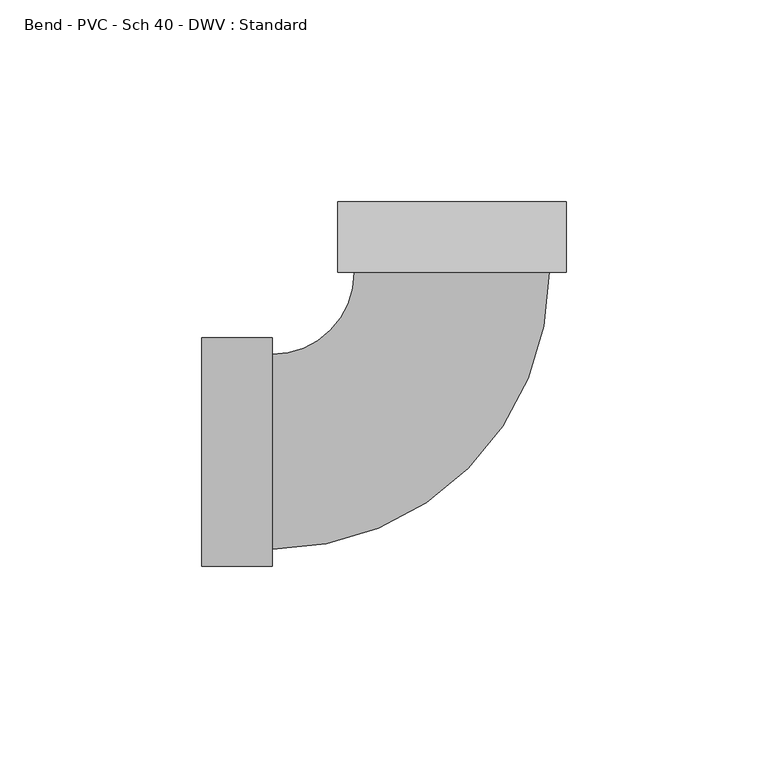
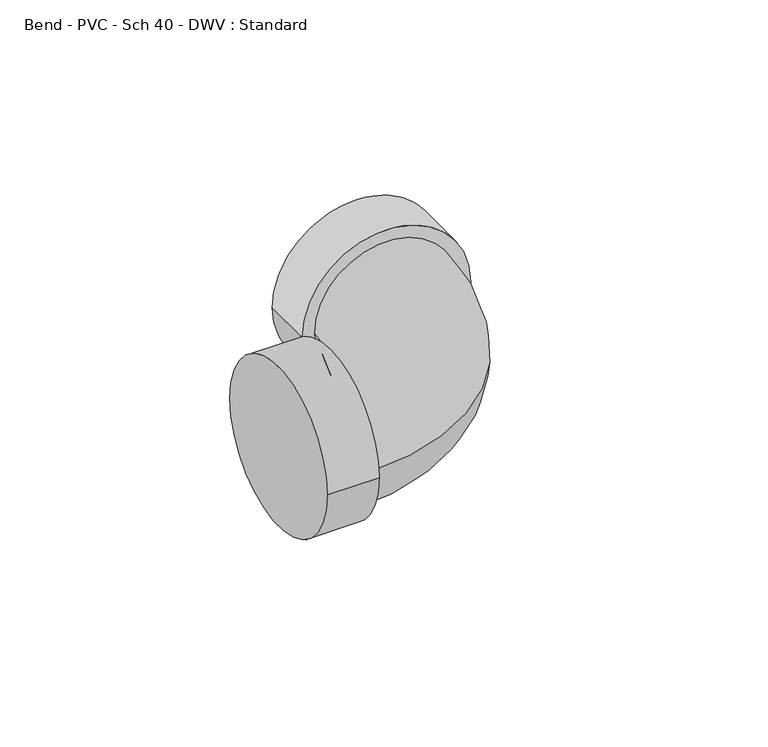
"""IFC4 building model written with IfcOpenShell, lengths in millimetres: pipe fitting geometry, Bend - PVC - Sch 40 - DWV : Standard."""

import ifcopenshell
import ifcopenshell.guid

model = None  # the IFC model being written
_history = None  # IfcOwnerHistory: only IFC2X3 demands one
_inside = {}  # id of a spatial element -> (the spatial element, [elements in it])
_under = {}  # id of a project, library or spatial element -> (it, [spatial elements below it])
_declared = {}  # id of a project -> (the project, [libraries it declares])
_typed = {}  # id of a type object -> (the type object, [elements of that type])
_made_of = {}  # id of a material, layer set ... -> (it, [elements and type objects made of it])


def new_model(schema):
    """Start an empty IFC model of exactly this schema.

    Asked for "IFC4X3", IfcOpenShell would pick the latest addendum, in which some entities
    have other attributes; the version numbers below select the first issue.
    IFC2X3 requires an IfcOwnerHistory on every rooted entity: one is made here for all.
    """
    global model, _history
    if schema == "IFC4X3":
        model = ifcopenshell.file(schema_version=(4, 3, 0, 0))
    else:
        model = ifcopenshell.file(schema=schema)
    _inside.clear()
    _under.clear()
    _declared.clear()
    _typed.clear()
    _made_of.clear()
    _history = None
    if model.schema == "IFC2X3":
        org = make("IfcOrganization", Name="unknown")
        user = make(
            "IfcPersonAndOrganization",
            ThePerson=make("IfcPerson", FamilyName="unknown"),
            TheOrganization=org,
        )
        app = make(
            "IfcApplication",
            ApplicationDeveloper=org,
            Version="unknown",
            ApplicationFullName="unknown",
            ApplicationIdentifier="unknown",
        )
        _history = make(
            "IfcOwnerHistory",
            OwningUser=user,
            OwningApplication=app,
            ChangeAction="ADDED",
            CreationDate=0,
        )
    return model


def make(cls, **values):
    """One entity of the class cls with the attributes given. An attribute that is None is left unset."""
    return model.create_entity(
        cls, **{name: value for name, value in values.items() if value is not None}
    )


def rooted(cls, **values):
    """An entity with a GlobalId (a new one), such as an element, a storey or a relation."""
    return make(cls, GlobalId=ifcopenshell.guid.new(), OwnerHistory=_history, **values)


def si_unit(unit_type, name, prefix=None):
    """IfcSIUnit, for example si_unit("LENGTHUNIT", "METRE", prefix="MILLI")."""
    return make("IfcSIUnit", UnitType=unit_type, Prefix=prefix, Name=name)


def assignment(units):
    """IfcUnitAssignment: the units of a project."""
    return None if units is None else make("IfcUnitAssignment", Units=units)


def point(xyz):
    """IfcCartesianPoint."""
    return None if xyz is None else make("IfcCartesianPoint", Coordinates=xyz)


def direction(xyz):
    """IfcDirection."""
    return None if xyz is None else make("IfcDirection", DirectionRatios=xyz)


def frame(location, z_axis=None, x_axis=None):
    """IfcAxis2Placement3D, a coordinate frame: its origin and axes. An axis left out is left unset."""
    return make(
        "IfcAxis2Placement3D",
        Location=point(location),
        Axis=direction(z_axis),
        RefDirection=direction(x_axis),
    )


def origin():
    """The frame at (0, 0, 0) with its axes left unset."""
    return frame((0.0, 0.0, 0.0))


def place(relative_to, where):
    """IfcLocalPlacement: puts the frame where relative to a parent placement (None: the world)."""
    return make(
        "IfcLocalPlacement", PlacementRelTo=relative_to, RelativePlacement=where
    )


def context(
    kind, dimensions, precision=None, world=None, true_north=None, identifier=None
):
    """IfcGeometricRepresentationContext, for example the 3D "Model" context."""
    return make(
        "IfcGeometricRepresentationContext",
        ContextIdentifier=identifier,
        ContextType=kind,
        CoordinateSpaceDimension=dimensions,
        Precision=precision,
        WorldCoordinateSystem=world,
        TrueNorth=true_north,
    )


def project(units=None, contexts=None):
    """IfcProject with its units and contexts."""
    return rooted(
        "IfcProject",
        Name="project",
        RepresentationContexts=contexts,
        UnitsInContext=assignment(units),
    )


def spatial(cls, under=None, at=None, **own):
    """A site, building, storey or space (cls), placed at a placement, below another one or the project."""
    s = rooted(cls, ObjectPlacement=at, **own)
    if under is not None:
        _under.setdefault(under.id(), (under, []))[1].append(s)
    return s


def circle_curve(where, radius):
    """IfcCircle in the frame where."""
    return make("IfcCircle", Position=where, Radius=radius)


def ellipse_curve(where, semi_axis1, semi_axis2):
    """IfcEllipse in the frame where."""
    return make(
        "IfcEllipse", Position=where, SemiAxis1=semi_axis1, SemiAxis2=semi_axis2
    )


def trimmed(basis, trim1, trim2, sense, master):
    """IfcTrimmedCurve: the piece of a basis curve between two trims."""
    return make(
        "IfcTrimmedCurve",
        BasisCurve=basis,
        Trim1=trim1,
        Trim2=trim2,
        SenseAgreement=sense,
        MasterRepresentation=master,
    )


def shape(context_of_items, identifier, shape_type, items):
    """IfcShapeRepresentation: the items that make up one representation, for example the "Body"."""
    return make(
        "IfcShapeRepresentation",
        ContextOfItems=context_of_items,
        RepresentationIdentifier=identifier,
        RepresentationType=shape_type,
        Items=items,
    )


def source(mapping_origin, context_of_items, identifier, shape_type, items):
    """IfcRepresentationMap: a shape defined once, which mapped items show again and again."""
    return make(
        "IfcRepresentationMap",
        MappingOrigin=mapping_origin,
        MappedRepresentation=shape(context_of_items, identifier, shape_type, items),
    )


def transform(
    local_origin,
    x_axis=None,
    y_axis=None,
    z_axis=None,
    scale=None,
    scale2=None,
    scale3=None,
    uniform=True,
):
    """IfcCartesianTransformationOperator3D, or its non-uniform kind. x_axis, y_axis, z_axis: its Axis1, 2, 3."""
    if uniform:
        return make(
            "IfcCartesianTransformationOperator3D",
            Axis1=direction(x_axis),
            Axis2=direction(y_axis),
            LocalOrigin=point(local_origin),
            Scale=scale,
            Axis3=direction(z_axis),
        )
    return make(
        "IfcCartesianTransformationOperator3DnonUniform",
        Axis1=direction(x_axis),
        Axis2=direction(y_axis),
        LocalOrigin=point(local_origin),
        Scale=scale,
        Axis3=direction(z_axis),
        Scale2=scale2,
        Scale3=scale3,
    )


def mapped(mapping_source, mapping_target):
    """IfcMappedItem: shows the shape of a source again, moved by a transform."""
    return make(
        "IfcMappedItem", MappingSource=mapping_source, MappingTarget=mapping_target
    )


def made_of(thing, what):
    """Note that an element or type object is made of a material, layer set ...; save() writes the relation."""
    if what is not None:
        _made_of.setdefault(what.id(), (what, []))[1].append(thing)
    return thing


def element(
    cls,
    number,
    at=None,
    inside=None,
    cuts=None,
    type_object=None,
    material=None,
    context=None,
    identifier="Body",
    shape_type=None,
    held_by="IfcProductDefinitionShape",
    body=None,
    shapes=None,
    **own,
):
    """One element of the class cls, such as IfcWall. Its Tag is "e" and its number.

    at: its placement. inside: the storey or other place that contains it. cuts: it is an
    opening in that element (IfcRelVoidsElement). A single representation is given by context,
    identifier, shape_type and body (its items); several are given by shapes. held_by: the class
    of the entity that holds the representations. save() writes the other relations.
    """
    e = rooted(cls, Tag="e%d" % number, ObjectPlacement=at, **own)
    if body is not None:
        shapes = [shape(context, identifier, shape_type, body)]
    if shapes is not None:
        e.Representation = make(held_by, Representations=shapes)
    if inside is not None:
        _inside.setdefault(inside.id(), (inside, []))[1].append(e)
    if cuts is not None:
        rooted(
            "IfcRelVoidsElement", RelatingBuildingElement=cuts, RelatedOpeningElement=e
        )
    if type_object is not None:
        _typed.setdefault(type_object.id(), (type_object, []))[1].append(e)
    return made_of(e, material)


def aggregate(whole, parts):
    """IfcRelAggregates: a whole, such as a stair, and the parts it consists of."""
    return rooted("IfcRelAggregates", RelatingObject=whole, RelatedObjects=parts)


def save(model, path):
    """Write the relations noted so far, then the file.

    IfcRelAggregates (storeys below a building ...), IfcRelContainedInSpatialStructure (elements
    in a storey), IfcRelDefinesByType, IfcRelAssociatesMaterial and IfcRelDeclares: one each for
    every whole, place, type object, material and project.
    """
    for whole, parts in _under.values():
        aggregate(whole, parts)
    for where, things in _inside.values():
        rooted(
            "IfcRelContainedInSpatialStructure",
            RelatedElements=things,
            RelatingStructure=where,
        )
    for kind, things in _typed.values():
        rooted("IfcRelDefinesByType", RelatedObjects=things, RelatingType=kind)
    for what, things in _made_of.values():
        rooted("IfcRelAssociatesMaterial", RelatedObjects=things, RelatingMaterial=what)
    for by, libraries in _declared.values():
        rooted("IfcRelDeclares", RelatingContext=by, RelatedDefinitions=libraries)
    model.write(path)


def plane_surface(at):
    """IfcPlane: the flat surface through the origin of the frame at, square to its z axis."""
    return make("IfcPlane", Position=at)


def cylinder_surface(at, radius):
    """IfcCylindricalSurface: all points at the distance radius from the z axis of the frame at."""
    return make("IfcCylindricalSurface", Position=at, Radius=radius)


def revolved_surface(curve, axis_point, axis_direction):
    """IfcSurfaceOfRevolution: the curve turned about the line through axis_point along axis_direction."""
    return make(
        "IfcSurfaceOfRevolution",
        SweptCurve=make("IfcArbitraryOpenProfileDef", ProfileType="CURVE", Curve=curve),
        AxisPosition=make("IfcAxis1Placement", Location=point(axis_point), Axis=direction(axis_direction)),
    )


def advanced_brep(points, edges, surfaces, faces):
    """IfcAdvancedBrep: a solid bounded by faces that lie on surfaces and meet in shared edges.

    An edge is (start, end): straight between two places in points (the first is 0);
    or (start, end, curve); or (start, end, curve, False) where it runs against its curve.
    A face is (place in surfaces, loops), or (place, loops, False) where it looks against
    its surface's normal. A loop lists edges by number (the first is 1), with a minus sign
    where the edge is run from its end to its start. The first loop is the outer one.
    """
    corners = [point(p) for p in points]
    vertices = [make("IfcVertexPoint", VertexGeometry=c) for c in corners]
    made = []
    for start, end, *more in edges:
        made.append(
            make(
                "IfcEdgeCurve",
                EdgeStart=vertices[start],
                EdgeEnd=vertices[end],
                EdgeGeometry=more[0] if more else make("IfcPolyline", Points=[corners[start], corners[end]]),
                SameSense=more[1] if len(more) > 1 else True,
            )
        )
    hull = []
    for where, loops, *sense in faces:
        bounds = []
        for j, loop in enumerate(loops):
            ring = [make("IfcOrientedEdge", EdgeElement=made[abs(k) - 1], Orientation=k > 0) for k in loop]
            bounds.append(
                make(
                    "IfcFaceOuterBound" if j == 0 else "IfcFaceBound",
                    Bound=make("IfcEdgeLoop", EdgeList=ring),
                    Orientation=True,
                )
            )
        hull.append(make("IfcAdvancedFace", Bounds=bounds, FaceSurface=surfaces[where], SameSense=sense[0] if sense else True))
    return make("IfcAdvancedBrep", Outer=make("IfcClosedShell", CfsFaces=hull))


def bend_pvc_sch_40_dwv_standard_6980ba03(model_context):
    return source(origin(), model_context, "Body", "AdvancedBrep", [
        advanced_brep(
        [(-61.8998, -28.2829, 0.0), (-61.8998, 28.2829, 0.0), (-44.45, -28.2829, 0.0), (-44.45, 28.2829, 0.0), (-44.45, -24.13, 0.0), (-44.45, 24.13, 0.0), (-24.1240014, 44.4532558, 0.0), (24.1359981, 44.4467434, 0.0), (28.2888981, 44.4461829, 0.0), (-28.2769014, 44.4538162, 0.0), (28.2912528, 61.8959828, 0.0), (-28.2745466, 61.9036161, 0.0)],
        [
            (0, 1, circle_curve(frame((-61.8998, 0.0, 0.0), z_axis=(-1.0, 0.0, 0.0), x_axis=(0.0, 1.0, 0.0)), 28.2829)),
            (1, 0, circle_curve(frame((-61.8998, 0.0, 0.0), z_axis=(-1.0, 0.0, 0.0), x_axis=(0.0, 1.0, 0.0)), 28.2829)),
            (2, 3, circle_curve(frame((-44.45, 0.0, 0.0), z_axis=(1.0, 0.0, 0.0), x_axis=(0.0, 1.0, 0.0)), 28.2829)),
            (3, 2, circle_curve(frame((-44.45, 0.0, 0.0), z_axis=(1.0, 0.0, 0.0), x_axis=(0.0, 1.0, 0.0)), 28.2829)),
            (4, 5, circle_curve(frame((-44.45, 0.0, 0.0), z_axis=(-1.0, 0.0, 0.0), x_axis=(0.0, 1.0, 0.0)), 24.13)),
            (5, 4, circle_curve(frame((-44.45, 0.0, 0.0), z_axis=(-1.0, 0.0, 0.0), x_axis=(0.0, 1.0, 0.0)), 24.13)),
            (0, 2),
            (3, 1),
            (6, 5, circle_curve(frame((-44.45, 44.4559987, 0.0), z_axis=(0.0, 0.0, -1.0), x_axis=(0.0, -1.0, 0.0)), 20.3259987)),
            (4, 7, circle_curve(frame((-44.45, 44.4559987, 0.0), z_axis=(0.0, 0.0, 1.0), x_axis=(0.0, -1.0, 0.0)), 68.5859987)),
            (7, 6, circle_curve(frame((0.0059983, 44.4499996, 0.0), z_axis=(-0.00013494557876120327, -0.9999999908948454, 0.0), x_axis=(-0.9999999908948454, 0.00013494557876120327, 0.0)), 24.13)),
            (6, 7, circle_curve(frame((0.0059983, 44.4499996, 0.0), z_axis=(-0.00013494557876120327, -0.9999999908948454, 0.0), x_axis=(-0.9999999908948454, 0.00013494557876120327, 0.0)), 24.13)),
            (8, 9, circle_curve(frame((0.0059983, 44.4499996, 0.0), z_axis=(-0.00013494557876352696, -0.9999999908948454, 0.0), x_axis=(-0.9999999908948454, 0.00013494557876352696, 0.0)), 28.2829)),
            (9, 8, circle_curve(frame((0.0059983, 44.4499996, 0.0), z_axis=(-0.00013494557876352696, -0.9999999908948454, 0.0), x_axis=(-0.9999999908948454, 0.00013494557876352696, 0.0)), 28.2829)),
            (10, 11, circle_curve(frame((0.0083531, 61.8997994, 0.0), z_axis=(0.00013494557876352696, 0.9999999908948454, 0.0), x_axis=(-0.9999999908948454, 0.00013494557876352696, 0.0)), 28.2829)),
            (11, 10, circle_curve(frame((0.0083531, 61.8997994, 0.0), z_axis=(0.00013494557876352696, 0.9999999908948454, 0.0), x_axis=(-0.9999999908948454, 0.00013494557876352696, 0.0)), 28.2829)),
            (8, 10),
            (11, 9),
        ],
        [
            plane_surface(frame((-61.8998, 0.0, 0.0), z_axis=(-1.0, 0.0, 0.0), x_axis=(0.0, 0.0, 1.0))),
            plane_surface(frame((-44.45, 0.0, 0.0), z_axis=(1.0, 0.0, 0.0), x_axis=(0.0, 0.0, 1.0))),
            cylinder_surface(frame((-61.8998, 0.0, 0.0), z_axis=(-1.0, 0.0, 0.0), x_axis=(0.0, 1.0, 0.0)), 28.2829),
            revolved_surface(trimmed(ellipse_curve(frame((-44.45, 0.0, 0.0), z_axis=(-1.0, 0.0, 0.0), x_axis=(0.0, 1.0, 0.0)), 24.13, 24.13), [point((-44.45, -24.13, 0.0))], [point((-44.45, 24.13, 0.0))], True, "CARTESIAN"), (-44.45, 44.4559987, 0.0), (0.0, 0.0, 1.0)),
            revolved_surface(trimmed(ellipse_curve(frame((-44.45, 0.0, 0.0), z_axis=(-1.0, 0.0, 0.0), x_axis=(0.0, 1.0, 0.0)), 24.13, 24.13), [point((-44.45, 24.13, 0.0))], [point((-44.45, -24.13, 0.0))], True, "CARTESIAN"), (-44.45, 44.4559987, 0.0), (0.0, 0.0, 1.0)),
            plane_surface(frame((0.0059983, 44.4499996, 0.0), z_axis=(-0.00013494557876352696, -0.9999999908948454, 0.0), x_axis=(0.0, 0.0, 1.0))),
            plane_surface(frame((0.0083531, 61.8997994, 0.0), z_axis=(0.00013494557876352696, 0.9999999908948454, 0.0), x_axis=(0.0, 0.0, 1.0))),
            cylinder_surface(frame((0.0059983, 44.4499996, 0.0), z_axis=(-0.00013494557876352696, -0.9999999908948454, 0.0), x_axis=(-0.9999999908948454, 0.00013494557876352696, 0.0)), 28.2829),
        ],
        [
            (0, [[1, 2]]),
            (1, [[3, 4], [5, 6]]),
            (2, [[-1, 7, -4, 8]]),
            (2, [[-2, -8, -3, -7]]),
            (3, [[9, -5, 10, 11]]),
            (4, [[-9, 12, -10, -6]]),
            (5, [[13, 14], [-11, -12]]),
            (6, [[15, 16]]),
            (7, [[-13, 17, -16, 18]]),
            (7, [[-14, -18, -15, -17]]),
        ],
    ),
    ])


if __name__ == "__main__":
    model = new_model("IFC4")
    model_context = context("Model", 3, world=origin())
    ifc_project = project(units=[si_unit("LENGTHUNIT", "METRE", prefix="MILLI")], contexts=[model_context])
    site = spatial("IfcSite", under=ifc_project)
    building = spatial("IfcBuilding", under=site)
    placement = place(None, origin())
    bend_pvc_sch_40_dwv_standard_shape = bend_pvc_sch_40_dwv_standard_6980ba03(model_context)
    element("IfcPipeFitting", 1, ObjectType="Bend - PVC - Sch 40 - DWV : Standard", at=placement, inside=building, context=model_context, shape_type="MappedRepresentation", body=[
        mapped(bend_pvc_sch_40_dwv_standard_shape, transform((0.0, 0.0, 0.0), x_axis=(1.0, 0.0, 0.0), y_axis=(0.0, 1.0, 0.0), z_axis=(0.0, 0.0, 1.0))),
    ])
    save(model, "model.ifc")
